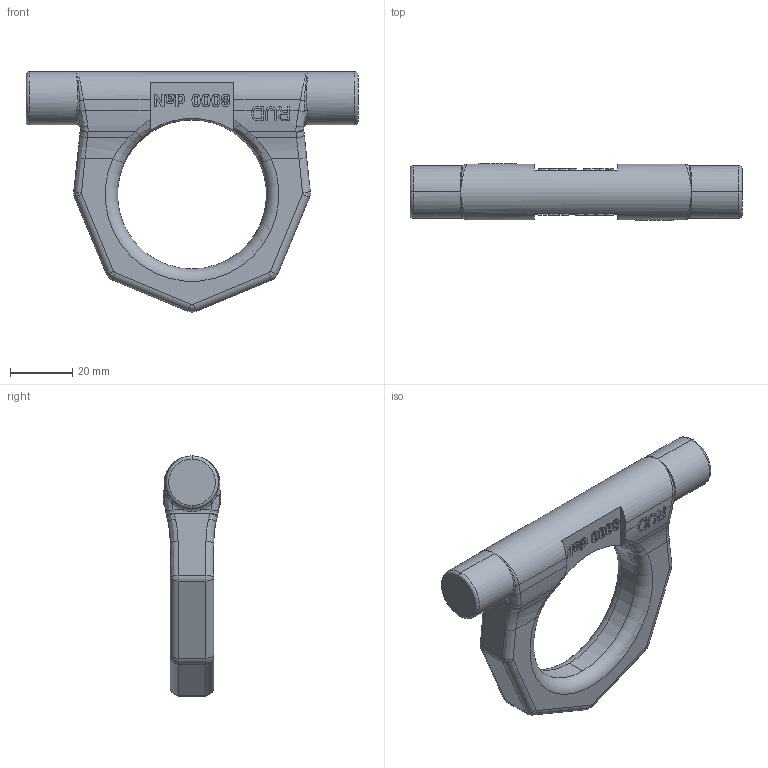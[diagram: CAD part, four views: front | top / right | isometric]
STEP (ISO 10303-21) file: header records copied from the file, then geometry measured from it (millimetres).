
FILE_DESCRIPTION((''),'2;1');
FILE_NAME('001-M35322-P-1','2023-08-07T10:30:58',('Lukas.Muehlberger'),(''),'CREO PARAMETRIC BY PTC INC, 2022162','CREO PARAMETRIC BY PTC INC, 2022162','');
FILE_SCHEMA(('AP242_MANAGED_MODEL_BASED_3D_ENGINEERING_MIM_LF { 1 0 10303 442 1 1 4 }'));
Length unit declared in the file: millimetre
Products named in the file (1): 001-M35322-P-1
Bounding box: 107 x 18.6 x 77.4 mm (x, y, z)
Volume: 52360.7 mm3; surface area: 13258.6 mm2
Topology: 1 solids, 1 shells, 622 faces, 1686 edges, 1094 vertices
Faces by surface type: plane 268, extrusion 228, bspline 74, cylinder 44, torus 8
Entity records: 28130 total; most frequent: CARTESIAN_POINT 8895, ORIENTED_EDGE 3372, DIRECTION 2036, PRESENTATION_STYLE_ASSIGNMENT 1687, STYLED_ITEM 1687, CURVE_STYLE 1686, EDGE_CURVE 1686, VERTEX_POINT 1094
